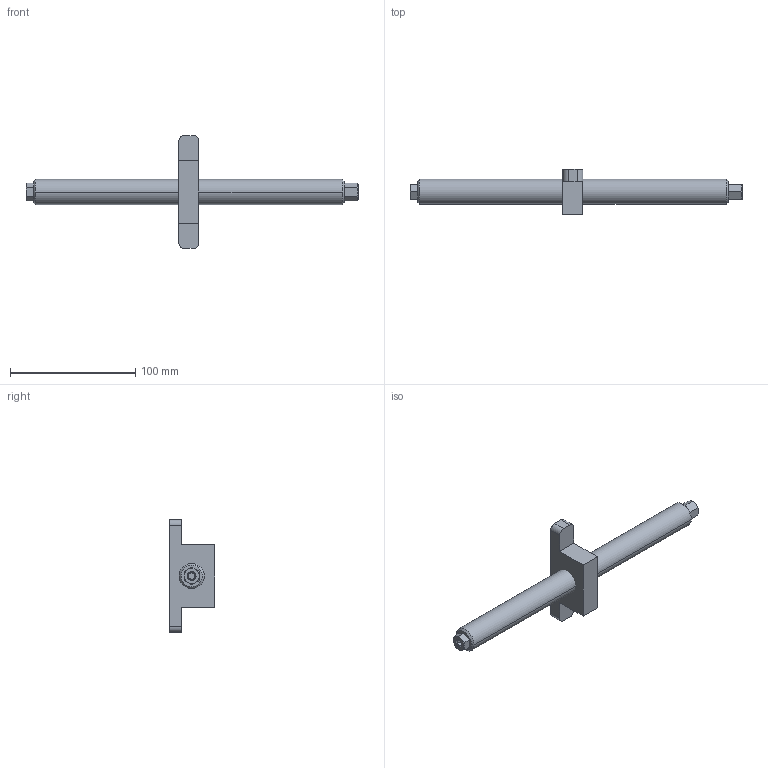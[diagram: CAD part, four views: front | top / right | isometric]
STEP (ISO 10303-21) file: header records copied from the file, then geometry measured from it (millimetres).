
FILE_DESCRIPTION (( 'STEP AP214' ), '1' );
FILE_NAME ('4025265.STEP', '2023-02-20T08:54:48', ( '' ), ( '' ), 'SwSTEP 2.0', 'SolidWorks 2021', '' );
FILE_SCHEMA (( 'AUTOMOTIVE_DESIGN' ));
Length unit declared in the file: millimetre
Products named in the file (1): 4025265
Bounding box: 265 x 36.5 x 90 mm (x, y, z)
Volume: 114998.9 mm3; surface area: 25435.4 mm2
Topology: 2 solids, 2 shells, 58 faces, 138 edges, 88 vertices
Faces by surface type: plane 40, cone 12, cylinder 6
Entity records: 2555 total; most frequent: CARTESIAN_POINT 565, ORIENTED_EDGE 276, DIRECTION 252, EDGE_CURVE 138, VERTEX_POINT 88, VECTOR 86, LINE 86, AXIS2_PLACEMENT_3D 83
